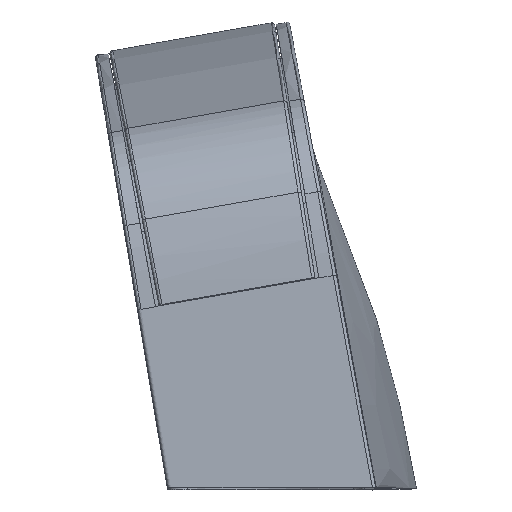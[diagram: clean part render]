
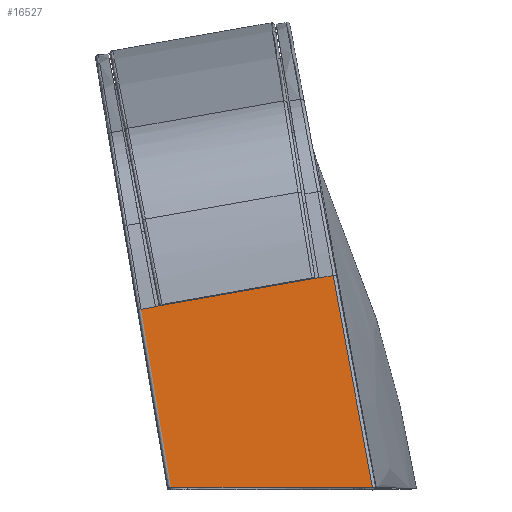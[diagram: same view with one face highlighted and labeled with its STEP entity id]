
A CAD part, top view. The second image highlights one B-rep face of the part: STEP entity #16527.
In plain terms, the highlighted planar face has unit normal (-0.008, 0.043, 0.999) as drawn and (0, 0.044, 0.999) by its records, which use the part's own axes.
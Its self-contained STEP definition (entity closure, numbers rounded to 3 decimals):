
#55 = VERTEX_POINT ( 'NONE', #5389 ) ;
#178 = CARTESIAN_POINT ( 'NONE',  ( 9.026, 20., 68.127 ) ) ;
#258 = LINE ( 'NONE', #15795, #8701 ) ;
#325 = CARTESIAN_POINT ( 'NONE',  ( -9.026, 20., 68.127 ) ) ;
#363 = EDGE_CURVE ( 'NONE', #9142, #16530, #258, .T. ) ;
#559 = CARTESIAN_POINT ( 'NONE',  ( 9.026, 20., 68.127 ) ) ;
#664 = EDGE_CURVE ( 'NONE', #3172, #12151, #5606, .T. ) ;
#839 = CARTESIAN_POINT ( 'NONE',  ( -9.2, -0.003, 69. ) ) ;
#936 = VERTEX_POINT ( 'NONE', #20615 ) ;
#1682 = LINE ( 'NONE', #6541, #20808 ) ;
#1700 = DIRECTION ( 'NONE',  ( 1., 0., 0. ) ) ;
#1796 = LINE ( 'NONE', #6601, #22504 ) ;
#1863 = CARTESIAN_POINT ( 'NONE',  ( 9.025, 20., 68.127 ) ) ;
#2095 = EDGE_CURVE ( 'NONE', #6046, #3172, #8066, .T. ) ;
#2860 = VECTOR ( 'NONE', #10046, 1000. ) ;
#3172 = VERTEX_POINT ( 'NONE', #325 ) ;
#4113 = DIRECTION ( 'NONE',  ( 0.009, -0.999, 0.044 ) ) ;
#4119 = EDGE_CURVE ( 'NONE', #55, #8715, #1796, .T. ) ;
#4149 = VERTEX_POINT ( 'NONE', #559 ) ;
#5051 = CARTESIAN_POINT ( 'NONE',  ( -9.171, 3.292, 68.856 ) ) ;
#5219 = EDGE_CURVE ( 'NONE', #8715, #16530, #17808, .T. ) ;
#5389 = CARTESIAN_POINT ( 'NONE',  ( -7.675, 20., 68.127 ) ) ;
#5606 = B_SPLINE_CURVE_WITH_KNOTS ( 'NONE', 3,
 ( #13529, #23658, #9687, #11876 ),
 .UNSPECIFIED., .F., .F.,
 ( 4, 4 ),
 ( 0., 0. ),
 .UNSPECIFIED. ) ;
#5818 = DIRECTION ( 'NONE',  ( 0.009, 0.999, -0.044 ) ) ;
#6030 = CARTESIAN_POINT ( 'NONE',  ( -9.5, 20., 68.127 ) ) ;
#6046 = VERTEX_POINT ( 'NONE', #5051 ) ;
#6185 = VECTOR ( 'NONE', #16514, 1000. ) ;
#6300 = AXIS2_PLACEMENT_3D ( 'NONE', #10452, #6695, #24679 ) ;
#6541 = CARTESIAN_POINT ( 'NONE',  ( -9.5, 20., 68.127 ) ) ;
#6601 = CARTESIAN_POINT ( 'NONE',  ( -7.676, 20.18, 68.119 ) ) ;
#6655 = LINE ( 'NONE', #8148, #13544 ) ;
#6695 = DIRECTION ( 'NONE',  ( 0., 0.044, 0.999 ) ) ;
#7411 = CARTESIAN_POINT ( 'NONE',  ( 9.2, 0.053, 68.998 ) ) ;
#8066 = LINE ( 'NONE', #839, #6185 ) ;
#8148 = CARTESIAN_POINT ( 'NONE',  ( -8.926, 3.249, 68.858 ) ) ;
#8379 = ORIENTED_EDGE ( 'NONE', *, *, #363, .T. ) ;
#8405 = ORIENTED_EDGE ( 'NONE', *, *, #18864, .T. ) ;
#8483 = ORIENTED_EDGE ( 'NONE', *, *, #4119, .F. ) ;
#8701 = VECTOR ( 'NONE', #5818, 1000. ) ;
#8715 = VERTEX_POINT ( 'NONE', #25261 ) ;
#9142 = VERTEX_POINT ( 'NONE', #9238 ) ;
#9238 = CARTESIAN_POINT ( 'NONE',  ( 7.675, 20., 68.127 ) ) ;
#9687 = CARTESIAN_POINT ( 'NONE',  ( -9.026, 20., 68.127 ) ) ;
#10046 = DIRECTION ( 'NONE',  ( -1., 0., 0. ) ) ;
#10198 = CARTESIAN_POINT ( 'NONE',  ( -9.025, 20., 68.127 ) ) ;
#10452 = CARTESIAN_POINT ( 'NONE',  ( -9.5, 0., 69. ) ) ;
#11284 = VERTEX_POINT ( 'NONE', #7411 ) ;
#11876 = CARTESIAN_POINT ( 'NONE',  ( -9.025, 20., 68.127 ) ) ;
#12075 = CARTESIAN_POINT ( 'NONE',  ( 9.026, 20., 68.127 ) ) ;
#12151 = VERTEX_POINT ( 'NONE', #10198 ) ;
#12832 = ORIENTED_EDGE ( 'NONE', *, *, #664, .F. ) ;
#13070 = VECTOR ( 'NONE', #1700, 1000. ) ;
#13529 = CARTESIAN_POINT ( 'NONE',  ( -9.026, 20., 68.127 ) ) ;
#13544 = VECTOR ( 'NONE', #22194, 1000. ) ;
#13765 = CARTESIAN_POINT ( 'NONE',  ( -24.665, 20.032, 68.125 ) ) ;
#13945 = EDGE_CURVE ( 'NONE', #4149, #11284, #21161, .T. ) ;
#14042 = ORIENTED_EDGE ( 'NONE', *, *, #5219, .F. ) ;
#14078 = CARTESIAN_POINT ( 'NONE',  ( 9.199, 0.163, 68.993 ) ) ;
#14211 = ORIENTED_EDGE ( 'NONE', *, *, #13945, .F. ) ;
#14695 = ORIENTED_EDGE ( 'NONE', *, *, #24764, .T. ) ;
#15795 = CARTESIAN_POINT ( 'NONE',  ( 7.526, 3.007, 68.869 ) ) ;
#15853 = CARTESIAN_POINT ( 'NONE',  ( 9.026, 20., 68.127 ) ) ;
#16403 = ORIENTED_EDGE ( 'NONE', *, *, #2095, .F. ) ;
#16514 = DIRECTION ( 'NONE',  ( 0.009, 0.999, -0.044 ) ) ;
#16527 = ADVANCED_FACE ( 'NONE', ( #21817 ), #20546, .T. ) ;
#16530 = VERTEX_POINT ( 'NONE', #20712 ) ;
#16608 = DIRECTION ( 'NONE',  ( -1., 0., 0. ) ) ;
#16666 = DIRECTION ( 'NONE',  ( -0.009, 0.999, -0.044 ) ) ;
#16768 = EDGE_LOOP ( 'NONE', ( #22008, #14211, #20681, #8405, #8379, #14042, #8483, #14695, #12832, #16403 ) ) ;
#17808 = LINE ( 'NONE', #13765, #13070 ) ;
#18864 = EDGE_CURVE ( 'NONE', #936, #9142, #1682, .T. ) ;
#19902 = VECTOR ( 'NONE', #4113, 1000. ) ;
#20546 = PLANE ( 'NONE',  #6300 ) ;
#20615 = CARTESIAN_POINT ( 'NONE',  ( 9.025, 20., 68.127 ) ) ;
#20681 = ORIENTED_EDGE ( 'NONE', *, *, #23863, .F. ) ;
#20712 = CARTESIAN_POINT ( 'NONE',  ( 7.675, 20.032, 68.125 ) ) ;
#20808 = VECTOR ( 'NONE', #16608, 1000. ) ;
#21161 = LINE ( 'NONE', #14078, #19902 ) ;
#21817 = FACE_OUTER_BOUND ( 'NONE', #16768, .T. ) ;
#22008 = ORIENTED_EDGE ( 'NONE', *, *, #22340, .T. ) ;
#22194 = DIRECTION ( 'NONE',  ( 0.985, -0.174, 0.008 ) ) ;
#22309 = LINE ( 'NONE', #6030, #2860 ) ;
#22340 = EDGE_CURVE ( 'NONE', #6046, #11284, #6655, .T. ) ;
#22369 = B_SPLINE_CURVE_WITH_KNOTS ( 'NONE', 3,
 ( #1863, #15853, #178, #12075 ),
 .UNSPECIFIED., .F., .F.,
 ( 4, 4 ),
 ( 0., 0. ),
 .UNSPECIFIED. ) ;
#22504 = VECTOR ( 'NONE', #16666, 1000. ) ;
#23658 = CARTESIAN_POINT ( 'NONE',  ( -9.026, 20., 68.127 ) ) ;
#23863 = EDGE_CURVE ( 'NONE', #936, #4149, #22369, .T. ) ;
#24679 = DIRECTION ( 'NONE',  ( 0., 0.999, -0.044 ) ) ;
#24764 = EDGE_CURVE ( 'NONE', #55, #12151, #22309, .T. ) ;
#25261 = CARTESIAN_POINT ( 'NONE',  ( -7.675, 20.032, 68.125 ) ) ;
